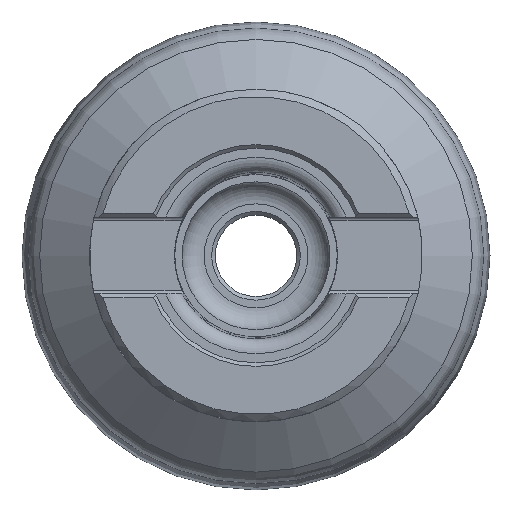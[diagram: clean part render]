
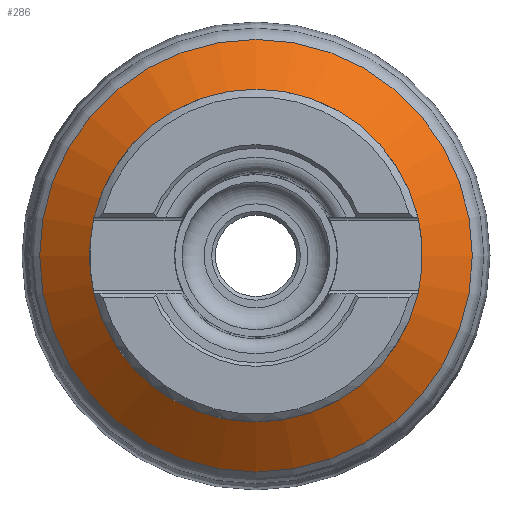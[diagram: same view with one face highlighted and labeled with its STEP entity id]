
A CAD part, top view. The second image highlights one B-rep face of the part: STEP entity #286.
In plain terms, the highlighted conical face has half-angle 52.042 degrees and reference radius 21.5 mm.
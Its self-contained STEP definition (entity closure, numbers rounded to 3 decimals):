
#149=CONICAL_SURFACE('',#1014,21.5,52.042);
#286=ADVANCED_FACE('',(#370,#371),#149,.T.);
#370=FACE_BOUND('',#450,.T.);
#371=FACE_BOUND('',#451,.T.);
#450=EDGE_LOOP('',(#577));
#451=EDGE_LOOP('',(#578));
#577=ORIENTED_EDGE('',*,*,#862,.T.);
#578=ORIENTED_EDGE('',*,*,#863,.T.);
#777=VERTEX_POINT('',#1529);
#778=VERTEX_POINT('',#1531);
#862=EDGE_CURVE('',#777,#777,#947,.T.);
#863=EDGE_CURVE('',#778,#778,#948,.T.);
#947=CIRCLE('',#1012,22.27);
#948=CIRCLE('',#1013,29.26);
#1012=AXIS2_PLACEMENT_3D('',#1528,#1167,#1168);
#1013=AXIS2_PLACEMENT_3D('',#1530,#1169,#1170);
#1014=AXIS2_PLACEMENT_3D('',#1532,#1171,#1172);
#1167=DIRECTION('',(0.,0.,-1.));
#1168=DIRECTION('',(0.,-1.,0.));
#1169=DIRECTION('',(0.,0.,1.));
#1170=DIRECTION('',(0.,1.,0.));
#1171=DIRECTION('',(0.,0.,-1.));
#1172=DIRECTION('',(0.,1.,0.));
#1528=CARTESIAN_POINT('',(0.,0.,-14.601));
#1529=CARTESIAN_POINT('',(0.,-22.27,-14.601));
#1530=CARTESIAN_POINT('',(0.,0.,-20.054));
#1531=CARTESIAN_POINT('',(0.,29.26,-20.054));
#1532=CARTESIAN_POINT('',(0.,0.,-14.));
